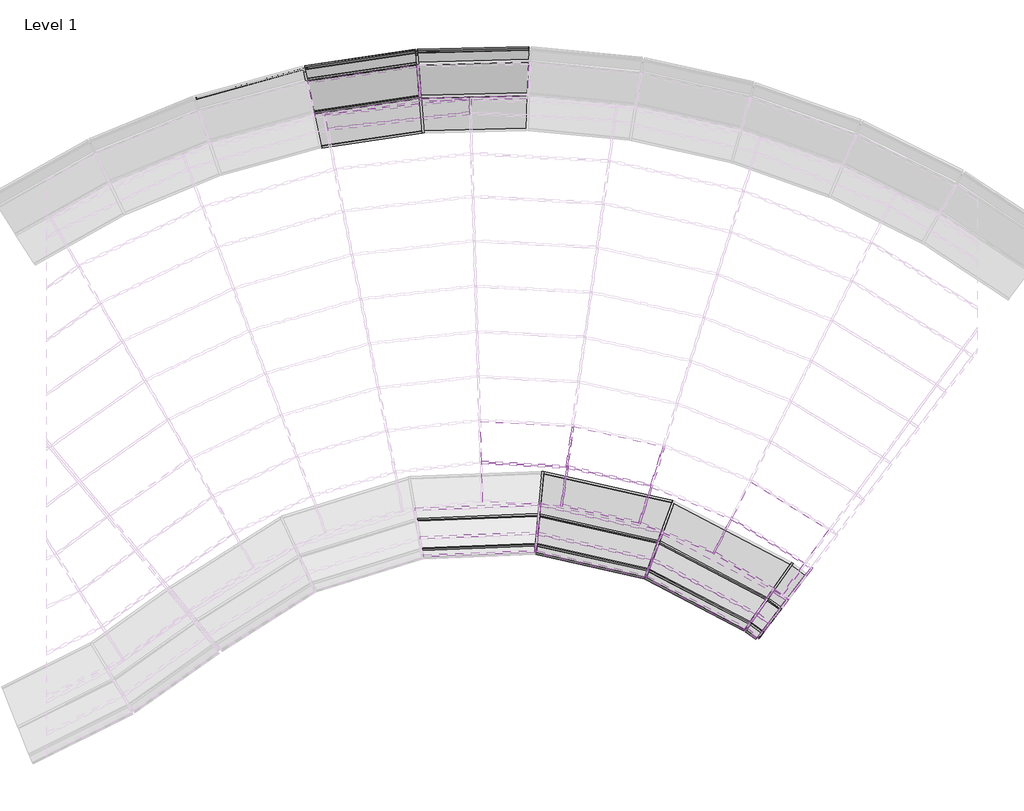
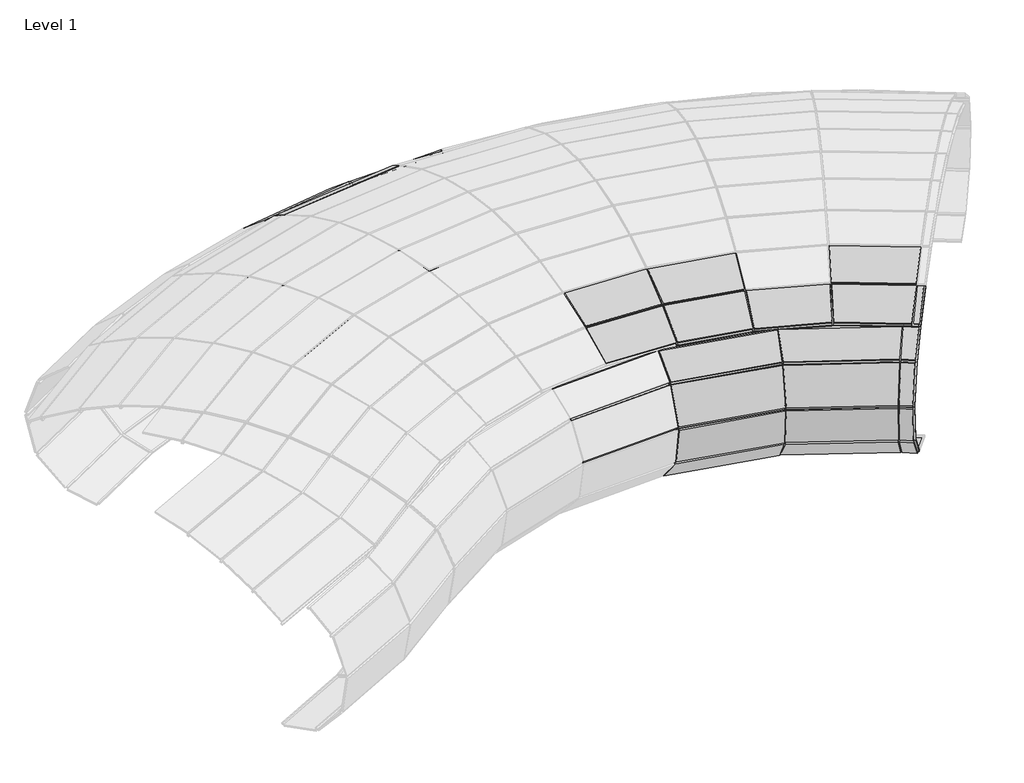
# One storey, part 10 of 23: 65 members, 34 plates.
"""IFC4 building model written with IfcOpenShell, lengths in millimetres."""

from ifc_helpers import new_model, si_unit, origin, place, context, project, spatial, transform, mapped, element, save
from components import member_a1596450, member_d6b8231b, member_54d4a950, member_a2486feb, member_89e98a43, member_bff08ed3, member_649bdf5e, member_35237229, member_65ac7dc4, member_8c9da58c, member_391bee44, member_01ebdf2a, member_4c2c1438, member_ab9de9a3, member_4657b864, member_20147643, member_c3b58052, member_3a0dd7d7, member_ff9adfd2, member_0cd36c09, member_dc232313, member_e4cc2466, member_f0155a20, member_775132e8, member_15538b30, member_0f5467c3, member_b171f0c8, member_07455e61, member_515abc7c, member_6834bcaf, member_a3fa0b53, member_b335b832, member_b70cd57a, system_panel_glazed_521f15da, system_panel_glazed_df8e7a80, system_panel_glazed_3632f886, system_panel_glazed_9a08d2db, system_panel_glazed_652ad043, system_panel_glazed_81883068, system_panel_glazed_270d951d, system_panel_glazed_c8f2843d, system_panel_glazed_44ceaade, system_panel_glazed_f797c5b5, system_panel_glazed_21d52e58, system_panel_glazed_aec5c574, system_panel_glazed_aeac0244, system_panel_glazed_c38b7309, system_panel_glazed_e73b46dd, system_panel_glazed_e5225984, system_panel_glazed_94c3709e, system_panel_glazed_130e820a, system_panel_glazed_5e04bf78

model = new_model("IFC4")

# Units and contexts
model_context = context("Model", 3, world=origin())
ifc_project = project(units=[si_unit("LENGTHUNIT", "METRE", prefix="MILLI")], contexts=[model_context])

# Site, building, storey
site = spatial("IfcSite", under=ifc_project)
building = spatial("IfcBuilding", under=site)
storey = spatial("IfcBuildingStorey", under=building, Name="Level 1", Elevation=0.0)

# Members
placement = place(None, origin())
member_shape = member_a1596450(model_context)
element("IfcMember", 1, ObjectType="Rectangular Mullion : 1\" Square", at=placement, inside=storey, context=model_context, shape_type="MappedRepresentation", body=[
    mapped(member_shape, transform((1937.8242171, -7608.1808848, 629.7792003), x_axis=(-0.09290409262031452, -0.41281592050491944, 0.9060639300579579), y_axis=(-0.1989338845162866, -0.8839554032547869, -0.4231408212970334), z_axis=(0.9755993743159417, -0.21955833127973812, 0.0))),
])
element("IfcMember", 2, ObjectType="Rectangular Mullion : 1\" Square", at=placement, inside=storey, context=model_context, shape_type="MappedRepresentation", body=[
    mapped(member_shape, transform((430.780423, -7272.382286, 629.7792003), x_axis=(0.016834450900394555, -0.42280581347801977, 0.9060639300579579), y_axis=(0.036047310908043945, -0.9053465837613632, -0.4231408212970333), z_axis=(0.9992082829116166, 0.03978451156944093, 0.0))),
])
element("IfcMember", 3, ObjectType="Rectangular Mullion : 1\" Square", at=placement, inside=storey, context=model_context, shape_type="MappedRepresentation", body=[
    mapped(member_shape, transform((3307.0644921, -8321.7092764, 629.7792003), x_axis=(-0.1963422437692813, -0.3748304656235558, 0.9060639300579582), y_axis=(-0.4204241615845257, -0.802617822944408, -0.4231408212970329), z_axis=(0.8858291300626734, -0.46401158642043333, 0.0))),
])
member_2_shape = member_d6b8231b(model_context)
element("IfcMember", 4, ObjectType="Rectangular Mullion : 1\" Square", at=placement, inside=storey, context=model_context, shape_type="MappedRepresentation", body=[
    mapped(member_2_shape, transform((3885.9085112, -7520.8318934, 0.0), x_axis=(0.8178700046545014, -0.5754030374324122, 0.0), y_axis=(-0.1612841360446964, -0.22924706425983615, -0.9599131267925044), z_axis=(0.5523369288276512, 0.7850841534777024, -0.28029767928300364))),
])
element("IfcMember", 5, ObjectType="Rectangular Mullion : 1\" Square", at=placement, inside=storey, context=model_context, shape_type="MappedRepresentation", body=[
    mapped(member_2_shape, transform((532.8987089, -6289.5105564, 0.0), x_axis=(0.9958820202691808, -0.09065871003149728, 0.0), y_axis=(-0.02541142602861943, -0.27914341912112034, -0.9599131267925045), z_axis=(0.08702448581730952, 0.9559602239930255, -0.2802976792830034))),
])
member_3_shape = member_54d4a950(model_context)
element("IfcMember", 6, ObjectType="Rectangular Mullion : 1\" Square", at=placement, inside=storey, context=model_context, shape_type="MappedRepresentation", body=[
    mapped(member_3_shape, transform((3720.0943333, -8124.4965776, 170.8694653), x_axis=(-0.4977243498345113, -0.6800295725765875, 0.5383588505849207), y_axis=(-0.31796525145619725, -0.43442876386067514, -0.8427156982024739), z_axis=(0.8069501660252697, -0.5906195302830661, 0.0))),
])
member_4_shape = member_a2486feb(model_context)
element("IfcMember", 7, ObjectType="Rectangular Mullion : 1\" Square", at=placement, inside=storey, context=model_context, shape_type="MappedRepresentation", body=[
    mapped(member_4_shape, transform((3537.9538895, -7993.5262462, 170.8694653), x_axis=(-0.39171959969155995, -0.7478188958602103, 0.5360248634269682), y_axis=(-0.2487217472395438, -0.47482643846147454, -0.844202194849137), z_axis=(0.8858291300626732, -0.46401158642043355, 0.0))),
])
element("IfcMember", 8, ObjectType="Rectangular Mullion : 1\" Square", at=placement, inside=storey, context=model_context, shape_type="MappedRepresentation", body=[
    mapped(member_4_shape, transform((2076.1483229, -7231.5106618, 170.8694653), x_axis=(-0.18535162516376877, -0.8236031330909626, 0.5360248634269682), y_axis=(-0.11768872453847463, -0.5229455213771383, -0.8442021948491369), z_axis=(0.9755993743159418, -0.21955833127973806, 0.0))),
])
element("IfcMember", 9, ObjectType="Rectangular Mullion : 1\" Square", at=placement, inside=storey, context=model_context, shape_type="MappedRepresentation", body=[
    mapped(member_4_shape, transform((467.1586371, -6872.7691723, 170.8694653), x_axis=(0.03358617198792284, -0.8435338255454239, 0.5360248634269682), y_axis=(0.021325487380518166, -0.5356004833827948, -0.8442021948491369), z_axis=(0.9992082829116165, 0.03978451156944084, 0.0))),
])
member_5_shape = member_89e98a43(model_context)
element("IfcMember", 10, ObjectType="Rectangular Mullion : 1\" Square", at=placement, inside=storey, context=model_context, shape_type="MappedRepresentation", body=[
    mapped(member_5_shape, transform((3571.6491551, -8319.5415222, 1789.6405438), x_axis=(0.3813174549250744, 0.5209854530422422, 0.7636564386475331), y_axis=(-0.45103040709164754, -0.6162326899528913, 0.6456228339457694), z_axis=(0.8069501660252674, -0.5906195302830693, 0.0))),
])
member_6_shape = member_bff08ed3(model_context)
element("IfcMember", 11, ObjectType="Rectangular Mullion : 1\" Square", at=placement, inside=storey, context=model_context, shape_type="MappedRepresentation", body=[
    mapped(member_6_shape, transform((545.2888209, -6292.2989472, 0.0), x_axis=(0.2106142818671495, 0.9358568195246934, -0.2825130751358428), y_axis=(-0.0620280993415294, -0.27561957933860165, -0.9592634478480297), z_axis=(-0.9755993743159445, 0.21955833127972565, 0.0))),
])
member_7_shape = member_649bdf5e(model_context)
element("IfcMember", 12, ObjectType="Rectangular Mullion : 1\" Square", at=placement, inside=storey, context=model_context, shape_type="MappedRepresentation", body=[
    mapped(member_7_shape, transform((3740.5908675, -8139.4983136, 170.8694653), x_axis=(0.8020965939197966, -0.5971221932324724, 0.009281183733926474), y_axis=(-0.4446549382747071, -0.607522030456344, -0.65817852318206), z_axis=(0.3986515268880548, 0.523795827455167, -0.7528046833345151))),
])
member_8_shape = member_35237229(model_context)
element("IfcMember", 13, ObjectType="Rectangular Mullion : 1\" Square", at=placement, inside=storey, context=model_context, shape_type="MappedRepresentation", body=[
    mapped(member_8_shape, transform((3497.5728968, -8458.8042501, 629.7792003), x_axis=(0.8066991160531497, -0.5909558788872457, 0.0027722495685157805), y_axis=(-0.5839654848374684, -0.797858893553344, -0.14968466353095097), z_axis=(0.09066889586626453, 0.11913158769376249, -0.9887299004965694))),
])
member_9_shape = member_65ac7dc4(model_context)
element("IfcMember", 14, ObjectType="Rectangular Mullion : 1\" Square", at=placement, inside=storey, context=model_context, shape_type="MappedRepresentation", body=[
    mapped(member_9_shape, transform((3442.3011378, -8531.4268659, 1232.5089476), x_axis=(0.8051049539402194, -0.5930916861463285, -0.006947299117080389), y_axis=(-0.5398003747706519, -0.7375170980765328, 0.40581286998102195), z_axis=(-0.24580799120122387, -0.32297179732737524, -0.9139297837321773))),
])
member_10_shape = member_8c9da58c(model_context)
element("IfcMember", 15, ObjectType="Rectangular Mullion : 1\" Square", at=placement, inside=storey, context=model_context, shape_type="MappedRepresentation", body=[
    mapped(member_10_shape, transform((479.8485823, -6872.263909, 170.8694653), x_axis=(0.9958820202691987, -0.09065871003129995, 0.0), y_axis=(-0.06824830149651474, -0.7497046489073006, -0.6582439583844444), z_axis=(0.059675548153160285, 0.655533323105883, -0.7528046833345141))),
])
element("IfcMember", 16, ObjectType="Rectangular Mullion : 1\" Square", at=placement, inside=storey, context=model_context, shape_type="MappedRepresentation", body=[
    mapped(member_10_shape, transform((2088.538435, -7234.2990526, 170.8694653), x_axis=(0.9387056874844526, -0.34471964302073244, 0.0), y_axis=(-0.259506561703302, -0.7066620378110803, -0.6582439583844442), z_axis=(0.22690962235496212, 0.6178973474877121, -0.7528046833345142))),
])
element("IfcMember", 17, ObjectType="Rectangular Mullion : 1\" Square", at=placement, inside=storey, context=model_context, shape_type="MappedRepresentation", body=[
    mapped(member_10_shape, transform((443.4703682, -7271.8770227, 629.7792003), x_axis=(0.9958820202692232, -0.0906587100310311, 0.0), y_axis=(-0.08963697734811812, -0.9846583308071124, -0.14971033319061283), z_axis=(0.013572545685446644, 0.1490938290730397, -0.9887299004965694))),
])
element("IfcMember", 18, ObjectType="Rectangular Mullion : 1\" Square", at=placement, inside=storey, context=model_context, shape_type="MappedRepresentation", body=[
    mapped(member_10_shape, transform((1950.2143292, -7610.9692756, 629.7792003), x_axis=(0.9387056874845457, -0.34471964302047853, 0.0), y_axis=(-0.34083461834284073, -0.9281263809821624, -0.14971033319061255), z_axis=(0.05160809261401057, 0.14053394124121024, -0.9887299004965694))),
])
element("IfcMember", 19, ObjectType="Rectangular Mullion : 1\" Square", at=placement, inside=storey, context=model_context, shape_type="MappedRepresentation", body=[
    mapped(member_10_shape, transform((3318.3145221, -8327.6022236, 629.7792003), x_axis=(0.8178700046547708, -0.5754030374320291, 0.0), y_axis=(-0.5689181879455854, -0.8086525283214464, -0.14971033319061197), z_axis=(0.08614378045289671, 0.12244359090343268, -0.9887299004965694))),
])
member_11_shape = member_391bee44(model_context)
element("IfcMember", 20, ObjectType="Rectangular Mullion : 1\" Square", at=placement, inside=storey, context=model_context, shape_type="MappedRepresentation", body=[
    mapped(member_11_shape, transform((435.1965443, -7362.7646209, 1232.5089476), x_axis=(0.9958820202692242, -0.09065871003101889, 0.0), y_axis=(-0.08285569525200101, -0.9101662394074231, 0.40587233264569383), z_axis=(-0.03679586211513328, -0.40420095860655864, -0.9139297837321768))),
])
element("IfcMember", 21, ObjectType="Rectangular Mullion : 1\" Square", at=placement, inside=storey, context=model_context, shape_type="MappedRepresentation", body=[
    mapped(member_11_shape, transform((1918.7540359, -7696.6387662, 1232.5089476), x_axis=(0.9387056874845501, -0.34471964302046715, 0.0), y_axis=(-0.3150495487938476, -0.8579110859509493, 0.4058723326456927), z_axis=(-0.13991216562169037, -0.38099466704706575, -0.9139297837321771))),
])
element("IfcMember", 22, ObjectType="Rectangular Mullion : 1\" Square", at=placement, inside=storey, context=model_context, shape_type="MappedRepresentation", body=[
    mapped(member_11_shape, transform((3265.8012735, -8402.2438366, 1232.5089476), x_axis=(0.8178700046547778, -0.5754030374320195, 0.0), y_axis=(-0.5258779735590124, -0.7474757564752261, 0.40587233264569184), z_axis=(-0.23354017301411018, -0.3319508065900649, -0.9139297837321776))),
])
member_12_shape = member_01ebdf2a(model_context)
element("IfcMember", 23, ObjectType="Rectangular Mullion : 1\" Square", at=placement, inside=storey, context=model_context, shape_type="MappedRepresentation", body=[
    mapped(member_12_shape, transform((457.6273019, -7116.3637166, 1789.6405438), x_axis=(0.9958820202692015, -0.09065871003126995, 0.0), y_axis=(-0.054019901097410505, -0.5934062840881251, 0.8030883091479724), z_axis=(-0.0728069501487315, -0.7997812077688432, -0.5958600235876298))),
])
element("IfcMember", 24, ObjectType="Rectangular Mullion : 1\" Square", at=placement, inside=storey, context=model_context, shape_type="MappedRepresentation", body=[
    mapped(member_12_shape, transform((2004.0444921, -7464.3844172, 1789.6405438), x_axis=(0.9387056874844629, -0.344719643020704, 0.0), y_axis=(-0.20540465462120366, -0.5593371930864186, 0.8030883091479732), z_axis=(-0.27684031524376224, -0.7538635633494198, -0.5958600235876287))),
])
element("IfcMember", 25, ObjectType="Rectangular Mullion : 1\" Square", at=placement, inside=storey, context=model_context, shape_type="MappedRepresentation", body=[
    mapped(member_12_shape, transform((3408.167363, -8199.8866249, 1789.6405438), x_axis=(0.8178700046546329, -0.5754030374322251, 0.0), y_axis=(-0.34285966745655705, -0.4873360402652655, 0.8030883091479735), z_axis=(-0.46209945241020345, -0.6568218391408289, -0.5958600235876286))),
])
member_13_shape = member_4c2c1438(model_context)
element("IfcMember", 26, ObjectType="Rectangular Mullion : 1\" Square", at=placement, inside=storey, context=model_context, shape_type="MappedRepresentation", body=[
    mapped(member_13_shape, transform((422.5065991, -7363.2698842, 1232.5089476), x_axis=(-0.005343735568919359, 0.1342106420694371, 0.9909384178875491), y_axis=(0.039424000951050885, -0.9901538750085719, 0.13431698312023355), z_axis=(0.9992082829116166, 0.03978451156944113, 0.0))),
])
element("IfcMember", 27, ObjectType="Rectangular Mullion : 1\" Square", at=placement, inside=storey, context=model_context, shape_type="MappedRepresentation", body=[
    mapped(member_13_shape, transform((1906.3639239, -7693.8503754, 1232.5089476), x_axis=(0.029490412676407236, 0.13103956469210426, 0.9909384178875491), y_axis=(-0.2175687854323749, -0.9667589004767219, 0.13431698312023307), z_axis=(0.9755993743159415, -0.21955833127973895, 0.0))),
])
element("IfcMember", 28, ObjectType="Rectangular Mullion : 1\" Square", at=placement, inside=storey, context=model_context, shape_type="MappedRepresentation", body=[
    mapped(member_13_shape, transform((3254.5512436, -8396.3508895, 1232.5089476), x_axis=(0.06232463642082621, 0.11898189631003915, 0.990938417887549), y_axis=(-0.45980690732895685, -0.8778021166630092, 0.1343169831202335), z_axis=(0.8858291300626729, -0.46401158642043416, 0.0))),
])
member_14_shape = member_ab9de9a3(model_context)
element("IfcMember", 29, ObjectType="Rectangular Mullion : 1\" Square", at=placement, inside=storey, context=model_context, shape_type="MappedRepresentation", body=[
    mapped(member_14_shape, transform((3421.8046036, -8516.4251299, 1232.5089476), x_axis=(0.07878404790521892, 0.10764087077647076, 0.9910633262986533), y_axis=(-0.5853413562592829, -0.7997387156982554, 0.13339221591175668), z_axis=(0.8069501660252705, -0.5906195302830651, 0.0))),
])
member_15_shape = member_4657b864(model_context)
element("IfcMember", 30, ObjectType="Rectangular Mullion : 1\" Square", at=placement, inside=storey, context=model_context, shape_type="MappedRepresentation", body=[
    mapped(member_15_shape, transform((444.9373567, -7116.8689799, 1789.6405438), x_axis=(-0.025786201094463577, 0.6476335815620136, 0.7615154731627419), y_axis=(0.03029652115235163, -0.7609125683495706, 0.6481467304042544), z_axis=(0.9992082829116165, 0.039784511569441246, 0.0))),
])
element("IfcMember", 31, ObjectType="Rectangular Mullion : 1\" Square", at=placement, inside=storey, context=model_context, shape_type="MappedRepresentation", body=[
    mapped(member_15_shape, transform((1991.65438, -7461.5960263, 1789.6405438), x_axis=(0.1423060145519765, 0.6323315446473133, 0.7615154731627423), y_axis=(-0.1671970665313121, -0.7429340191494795, 0.648146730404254), z_axis=(0.9755993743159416, -0.21955833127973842, 0.0))),
])
element("IfcMember", 32, ObjectType="Rectangular Mullion : 1\" Square", at=placement, inside=storey, context=model_context, shape_type="MappedRepresentation", body=[
    mapped(member_15_shape, transform((3396.917333, -8193.9936778, 1789.6405438), x_axis=(0.3007475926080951, 0.5741472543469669, 0.7615154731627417), y_axis=(-0.35335200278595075, -0.6745725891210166, 0.6481467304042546), z_axis=(0.8858291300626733, -0.46401158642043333, 0.0))),
])
member_16_shape = member_20147643(model_context)
element("IfcMember", 33, ObjectType="Rectangular Mullion : 1\" Square", at=placement, inside=storey, context=model_context, shape_type="MappedRepresentation", body=[
    mapped(member_16_shape, transform((3477.0763625, -8443.802514, 629.7792003), x_axis=(-0.24849482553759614, -0.33951288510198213, 0.9071831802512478), y_axis=(-0.5358001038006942, -0.7320516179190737, -0.4207358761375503), z_axis=(0.8069501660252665, -0.5906195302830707, 0.0))),
])
member_17_shape = member_c3b58052(model_context)
element("IfcMember", 34, ObjectType="Rectangular Mullion : 1\" Square", at=placement, inside=storey, context=model_context, shape_type="MappedRepresentation", body=[
    mapped(member_17_shape, transform((3813.2347181, -8002.1176536, 2085.6089632), x_axis=(0.47429009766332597, 0.6480118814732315, 0.59592743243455), y_axis=(-0.35196638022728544, -0.48088374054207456, 0.8030382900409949), z_axis=(0.8069501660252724, -0.5906195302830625, 0.0))),
])
member_18_shape = member_3a0dd7d7(model_context)
element("IfcMember", 35, ObjectType="Rectangular Mullion : 1\" Square", at=placement, inside=storey, context=model_context, shape_type="MappedRepresentation", body=[
    mapped(member_18_shape, transform((481.1011487, -6719.6112842, 2085.6089632), x_axis=(-0.031853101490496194, 0.8000068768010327, 0.5991447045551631), y_axis=(0.023836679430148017, -0.5986703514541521, 0.8006407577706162), z_axis=(0.9992082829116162, 0.03978451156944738, 0.0))),
])
element("IfcMember", 36, ObjectType="Rectangular Mullion : 1\" Square", at=placement, inside=storey, context=model_context, shape_type="MappedRepresentation", body=[
    mapped(member_18_shape, transform((2129.1631695, -7087.1459903, 2085.6089632), x_axis=(0.17578734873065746, 0.7811046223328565, 0.5991447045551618), y_axis=(-0.13154721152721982, -0.5845251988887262, 0.8006407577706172), z_axis=(0.9755993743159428, -0.21955833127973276, 0.0))),
])
member_19_shape = member_ff9adfd2(model_context)
element("IfcMember", 37, ObjectType="Rectangular Mullion : 1\" Square", at=placement, inside=storey, context=model_context, shape_type="MappedRepresentation", body=[
    mapped(member_19_shape, transform((-440.1682288, -1469.4116748, 2208.6526723), x_axis=(0.9995637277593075, 0.029535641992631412, 0.0), y_axis=(-0.015110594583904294, 0.5113822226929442, 0.8592205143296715), z_axis=(0.02537762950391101, -0.8588456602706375, 0.5116054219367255))),
])
member_20_shape = member_0cd36c09(model_context)
element("IfcMember", 38, ObjectType="Rectangular Mullion : 1\" Square", at=placement, inside=storey, context=model_context, shape_type="MappedRepresentation", body=[
    mapped(member_20_shape, transform((859.3573032, -6222.74986, 2378.3537392), x_axis=(0.9907327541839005, -0.13582565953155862, 0.0), y_axis=(-0.05057792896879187, -0.3689230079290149, 0.9280828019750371), z_axis=(-0.12605745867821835, -0.9194820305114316, -0.3723738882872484))),
])
element("IfcMember", 39, ObjectType="Rectangular Mullion : 1\" Square", at=placement, inside=storey, context=model_context, shape_type="MappedRepresentation", body=[
    mapped(member_20_shape, transform((1994.1119759, -6475.4787484, 2378.3537392), x_axis=(0.9547335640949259, -0.29746230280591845, 0.0), y_axis=(-0.11076719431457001, -0.35551784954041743, 0.928082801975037), z_axis=(-0.27606964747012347, -0.8860718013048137, -0.37237388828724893))),
])
member_21_shape = member_dc232313(model_context)
element("IfcMember", 40, ObjectType="Rectangular Mullion : 1\" Square", at=placement, inside=storey, context=model_context, shape_type="MappedRepresentation", body=[
    mapped(member_21_shape, transform((1981.7156999, -6472.7178899, 2378.3537392), x_axis=(0.1966702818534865, 0.8830510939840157, 0.4260769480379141), y_axis=(-0.09262505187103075, -0.4158872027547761, 0.9046869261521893), z_axis=(0.9760847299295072, -0.21739043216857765, 0.0))),
])
element("IfcMember", 41, ObjectType="Rectangular Mullion : 1\" Square", at=placement, inside=storey, context=model_context, shape_type="MappedRepresentation", body=[
    mapped(member_21_shape, transform((846.6753747, -6222.0725929, 2378.3537392), x_axis=(0.048245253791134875, 0.9033995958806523, 0.426076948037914), y_axis=(-0.0227218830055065, -0.4254706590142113, 0.9046869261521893), z_axis=(0.9985770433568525, -0.05332812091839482, 0.0))),
])
member_22_shape = member_e4cc2466(model_context)
element("IfcMember", 42, ObjectType="Rectangular Mullion : 1\" Square", at=placement, inside=storey, context=model_context, shape_type="MappedRepresentation", body=[
    mapped(member_22_shape, transform((2830.4781949, -7389.2645166, 2085.6089632), x_axis=(0.8925533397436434, -0.45094183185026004, 0.0), y_axis=(-0.21655325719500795, -0.4286258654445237, 0.8771456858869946), z_axis=(-0.39554168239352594, -0.7828993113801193, -0.48022437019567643))),
])
element("IfcMember", 43, ObjectType="Rectangular Mullion : 1\" Square", at=placement, inside=storey, context=model_context, shape_type="MappedRepresentation", body=[
    mapped(member_22_shape, transform((1835.0564999, -6985.9824326, 2085.6089632), x_axis=(0.9547335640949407, -0.2974623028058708, 0.0), y_axis=(-0.14284864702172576, -0.4584863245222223, 0.8771456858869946), z_axis=(-0.2609177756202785, -0.8374404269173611, -0.48022437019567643))),
])
element("IfcMember", 44, ObjectType="Rectangular Mullion : 1\" Square", at=placement, inside=storey, context=model_context, shape_type="MappedRepresentation", body=[
    mapped(member_22_shape, transform((786.7302351, -6752.5025996, 2085.6089632), x_axis=(0.9907327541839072, -0.13582565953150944, 0.0), y_axis=(-0.0652267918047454, -0.47577401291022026, 0.8771456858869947), z_axis=(-0.11913889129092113, -0.8690169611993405, -0.4802243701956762))),
])
member_23_shape = member_f0155a20(model_context)
element("IfcMember", 45, ObjectType="Rectangular Mullion : 1\" Square", at=placement, inside=storey, context=model_context, shape_type="MappedRepresentation", body=[
    mapped(member_23_shape, transform((-452.7880414, -1470.8365713, 2208.6526723), x_axis=(-0.09781407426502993, 0.8663052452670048, -0.4898444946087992), y_axis=(-0.05495887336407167, 0.48675163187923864, 0.8718098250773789), z_axis=(0.9936860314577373, 0.11219657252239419, 0.0))),
])
member_24_shape = member_775132e8(model_context)
element("IfcMember", 46, ObjectType="Rectangular Mullion : 1\" Square", at=placement, inside=storey, context=model_context, shape_type="MappedRepresentation", body=[
    mapped(member_24_shape, transform((-458.8914905, -1264.2798166, 2085.6089632), x_axis=(-0.09631462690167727, 0.8530251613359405, -0.5129050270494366), y_axis=(-0.057546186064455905, 0.5096665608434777, 0.8584453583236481), z_axis=(0.9936860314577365, 0.11219657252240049, 0.0))),
])
member_25_shape = member_15538b30(model_context)
element("IfcMember", 47, ObjectType="Rectangular Mullion : 1\" Square", at=placement, inside=storey, context=model_context, shape_type="MappedRepresentation", body=[
    mapped(member_25_shape, transform((799.1265111, -6755.2634581, 2085.6089632), x_axis=(-0.19053148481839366, -0.8554878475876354, -0.4814958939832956), y_axis=(-0.10467260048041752, -0.4699807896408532, 0.8764483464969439), z_axis=(-0.9760847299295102, 0.2173904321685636, 0.0))),
])
element("IfcMember", 48, ObjectType="Rectangular Mullion : 1\" Square", at=placement, inside=storey, context=model_context, shape_type="MappedRepresentation", body=[
    mapped(member_25_shape, transform((1846.8271886, -6990.7511733, 2085.6089632), x_axis=(-0.329098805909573, -0.8123150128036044, -0.48149589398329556), y_axis=(-0.1807975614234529, -0.44626285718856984, 0.8764483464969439), z_axis=(-0.9268258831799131, 0.37549138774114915, 0.0))),
])
element("IfcMember", 49, ObjectType="Rectangular Mullion : 1\" Square", at=placement, inside=storey, context=model_context, shape_type="MappedRepresentation", body=[
    mapped(member_25_shape, transform((2841.3005164, -7395.9103693, 2085.6089632), x_axis=(-0.45864146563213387, -0.7468665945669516, -0.4814958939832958), y_axis=(-0.2519646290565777, -0.4103073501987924, 0.8764483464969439), z_axis=(-0.8521512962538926, 0.5232954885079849, 0.0))),
])
member_26_shape = member_0f5467c3(model_context)
element("IfcMember", 50, ObjectType="Rectangular Mullion : 1\" Square", at=placement, inside=storey, context=model_context, shape_type="MappedRepresentation", body=[
    mapped(member_26_shape, transform((3833.7312523, -8017.1193897, 2085.6089632), x_axis=(0.7969242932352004, -0.6040686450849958, -0.0035697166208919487), y_axis=(-0.28759687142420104, -0.3845987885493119, 0.8771384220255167), z_axis=(-0.5312247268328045, -0.6979862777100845, -0.4802243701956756))),
])
element("IfcMember", 51, ObjectType="Rectangular Mullion : 1\" Square", at=placement, inside=storey, context=model_context, shape_type="MappedRepresentation", body=[
    mapped(member_10_shape, transform((-2676.4810754, -869.9608129, 1116.1918244), x_axis=(0.9786921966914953, 0.2053328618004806, 0.0), y_axis=(-0.1985557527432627, 0.9463899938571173, -0.2547971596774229), z_axis=(-0.05231822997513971, 0.24936799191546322, 0.9669945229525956))),
])
element("IfcMember", 52, ObjectType="Rectangular Mullion : 1\" Square", at=placement, inside=storey, context=model_context, shape_type="MappedRepresentation", body=[
    mapped(member_10_shape, transform((-1150.1711115, -833.3688141, 1696.6281859), x_axis=(0.9963613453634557, 0.08522951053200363, 0.0), y_axis=(-0.08115207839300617, 0.9486948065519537, 0.30560187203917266), z_axis=(0.026046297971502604, -0.30448989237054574, 0.9521593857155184))),
])
element("IfcMember", 53, ObjectType="Rectangular Mullion : 1\" Square", at=placement, inside=storey, context=model_context, shape_type="MappedRepresentation", body=[
    mapped(member_10_shape, transform((-1166.0489348, -647.7517757, 1116.1918244), x_axis=(0.9963613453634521, 0.08522951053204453, 0.0), y_axis=(-0.08241646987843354, 0.9634759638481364, -0.25479715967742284), z_axis=(-0.021716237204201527, 0.25387004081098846, 0.9669945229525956))),
])
element("IfcMember", 54, ObjectType="Rectangular Mullion : 1\" Square", at=placement, inside=storey, context=model_context, shape_type="MappedRepresentation", body=[
    mapped(member_11_shape, transform((-1152.8107166, -802.5109526, 526.7119632), x_axis=(0.99636134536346, 0.0852295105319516, 0.0), y_axis=(-0.05778007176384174, 0.6754682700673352, -0.7351218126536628), z_axis=(-0.06265407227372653, 0.7324469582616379, 0.6779350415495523))),
])
element("IfcMember", 55, ObjectType="Rectangular Mullion : 1\" Square", at=placement, inside=storey, context=model_context, shape_type="MappedRepresentation", body=[
    mapped(member_12_shape, transform((-1114.6167941, -1249.0106184, 113.4427618), x_axis=(0.9963613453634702, 0.08522951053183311, 0.0), y_axis=(-0.019465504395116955, 0.227558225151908, -0.9735698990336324), z_axis=(-0.08297688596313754, 0.97002741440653, 0.2283892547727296))),
])
element("IfcMember", 56, ObjectType="Rectangular Mullion : 1\" Square", at=placement, inside=storey, context=model_context, shape_type="MappedRepresentation", body=[
    mapped(member_2_shape, transform((-1110.1671252, -1301.028729, 2085.6089632), x_axis=(0.9963613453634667, 0.08522951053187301, 0.0), y_axis=(-0.0543842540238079, 0.6357700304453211, 0.7699602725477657), z_axis=(0.0656233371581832, -0.7671586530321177, 0.6380918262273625))),
])
member_27_shape = member_b171f0c8(model_context)
element("IfcMember", 57, ObjectType="Rectangular Mullion : 1\" Square", at=placement, inside=storey, context=model_context, shape_type="MappedRepresentation", body=[
    mapped(member_27_shape, transform((-2688.7292646, -873.3181719, 1116.1918244), x_axis=(-0.007013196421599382, 0.025585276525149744, -0.9996480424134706), y_axis=(-0.26426592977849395, 0.9640849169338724, 0.02652906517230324), z_axis=(0.9644243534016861, 0.26435897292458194, 0.0))),
])
element("IfcMember", 58, ObjectType="Rectangular Mullion : 1\" Square", at=placement, inside=storey, context=model_context, shape_type="MappedRepresentation", body=[
    mapped(member_27_shape, transform((-1178.613692, -649.6002551, 1116.1918244), x_axis=(-0.0038612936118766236, 0.02624655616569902, -0.9996480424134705), y_axis=(-0.1454983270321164, 0.9890027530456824, 0.026529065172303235), z_axis=(0.9893509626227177, 0.14554955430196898, 0.0))),
])
member_28_shape = member_07455e61(model_context)
element("IfcMember", 59, ObjectType="Rectangular Mullion : 1\" Square", at=placement, inside=storey, context=model_context, shape_type="MappedRepresentation", body=[
    mapped(member_28_shape, transform((-1165.3754738, -804.359432, 526.7119632), x_axis=(0.07519318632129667, -0.5111142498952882, -0.8562173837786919), y_axis=(-0.12462205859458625, 0.8470994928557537, -0.5166157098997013), z_axis=(0.9893509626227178, 0.14554955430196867, 0.0))),
])
member_29_shape = member_515abc7c(model_context)
element("IfcMember", 60, ObjectType="Rectangular Mullion : 1\" Square", at=placement, inside=storey, context=model_context, shape_type="MappedRepresentation", body=[
    mapped(member_29_shape, transform((-1162.7358687, -835.2172935, 1696.6281859), x_axis=(-0.08168989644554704, 0.5552746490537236, -0.8276453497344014), y_axis=(-0.12046341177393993, 0.8188317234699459, 0.5612514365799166), z_axis=(0.9893509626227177, 0.14554955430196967, 0.0))),
])
member_30_shape = member_6834bcaf(model_context)
element("IfcMember", 61, ObjectType="Rectangular Mullion : 1\" Square", at=placement, inside=storey, context=model_context, shape_type="MappedRepresentation", body=[
    mapped(member_30_shape, transform((-1127.1815513, -1250.8590977, 113.4427618), x_axis=(0.130451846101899, -0.8867265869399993, -0.4435067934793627), y_axis=(-0.06455221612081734, 0.4387838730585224, -0.896271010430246), z_axis=(0.9893509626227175, 0.1455495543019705, 0.0))),
])
member_31_shape = member_a3fa0b53(model_context)
element("IfcMember", 62, ObjectType="Rectangular Mullion : 1\" Square", at=placement, inside=storey, context=model_context, shape_type="MappedRepresentation", body=[
    mapped(member_31_shape, transform((-1085.9662712, -1732.6794402, 0.0), x_axis=(0.1416890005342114, -0.963109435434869, -0.22878907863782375), y_axis=(-0.033300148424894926, 0.22635269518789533, -0.9734760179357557), z_axis=(0.9893509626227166, 0.14554955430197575, 0.0))),
])
member_32_shape = member_b335b832(model_context)
element("IfcMember", 63, ObjectType="Rectangular Mullion : 1\" Square", at=placement, inside=storey, context=model_context, shape_type="MappedRepresentation", body=[
    mapped(member_32_shape, transform((-2529.287223, -1509.8042855, 2085.6089632), x_axis=(0.11198310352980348, -0.7611881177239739, 0.6387898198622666), y_axis=(-0.09297557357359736, 0.6319873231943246, 0.7693812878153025), z_axis=(-0.9893509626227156, -0.14554955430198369, 0.0))),
])
element("IfcMember", 64, ObjectType="Rectangular Mullion : 1\" Square", at=placement, inside=storey, context=model_context, shape_type="MappedRepresentation", body=[
    mapped(member_32_shape, transform((-1097.470967, -1300.7163704, 2085.6089632), x_axis=(0.018923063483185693, -0.7691485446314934, 0.6387898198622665), y_axis=(-0.01571114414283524, 0.6385965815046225, 0.7693812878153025), z_axis=(-0.999697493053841, -0.024595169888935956, 0.0))),
])
member_33_shape = member_b70cd57a(model_context)
element("IfcMember", 65, ObjectType="Rectangular Mullion : 1\" Square", at=placement, inside=storey, context=model_context, shape_type="MappedRepresentation", body=[
    mapped(member_33_shape, transform((3592.1456893, -8334.5432583, 1789.6405438), x_axis=(0.7997252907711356, -0.6002991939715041, -0.00896309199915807), y_axis=(-0.351966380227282, -0.48088374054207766, 0.8030382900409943), z_axis=(-0.48637344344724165, -0.6390553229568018, -0.5958600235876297))),
])

# Plates
system_panel_glazed_shape = system_panel_glazed_521f15da(model_context)
element("IfcPlate", 66, ObjectType="System Panel : Glazed", at=placement, inside=storey, context=model_context, shape_type="MappedRepresentation", body=[
    mapped(system_panel_glazed_shape, transform((1406.2275667, -6511.0276299, 7.1758321), x_axis=(0.9755993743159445, -0.21955833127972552, 0.0), y_axis=(0.06202809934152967, 0.27561957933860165, 0.9592634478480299), z_axis=(-0.21061428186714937, -0.9358568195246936, 0.28251307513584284))),
])
element("IfcPlate", 67, ObjectType="System Panel : Glazed", at=placement, inside=storey, context=model_context, shape_type="MappedRepresentation", body=[
    mapped(system_panel_glazed_shape, transform((3076.776293, -7124.5010201, 7.1758321), x_axis=(0.8858291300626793, -0.46401158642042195, 0.0), y_axis=(0.13108934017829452, 0.2502583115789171, 0.9592634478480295), z_axis=(-0.44510935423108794, -0.8497435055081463, 0.28251307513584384))),
])
system_panel_glazed_2_shape = system_panel_glazed_df8e7a80(model_context)
element("IfcPlate", 68, ObjectType="System Panel : Glazed", at=placement, inside=storey, context=model_context, shape_type="MappedRepresentation", body=[
    mapped(system_panel_glazed_2_shape, transform((3970.9203707, -7613.2677401, 7.1207118), x_axis=(0.8069501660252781, -0.5906195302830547, 0.0), y_axis=(0.16557604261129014, 0.22622281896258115, 0.9598998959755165), z_axis=(-0.5669356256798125, -0.7745913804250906, 0.28034298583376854))),
])
system_panel_glazed_3_shape = system_panel_glazed_3632f886(model_context)
element("IfcPlate", 69, ObjectType="System Panel : Glazed", at=placement, inside=storey, context=model_context, shape_type="MappedRepresentation", body=[
    mapped(system_panel_glazed_3_shape, transform((1282.3669717, -7061.3976308, 180.4653952), x_axis=(0.9755993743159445, -0.21955833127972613, 0.0), y_axis=(0.1658949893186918, 0.7371482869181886, 0.6550505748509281), z_axis=(-0.1438218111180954, -0.639066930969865, 0.7555850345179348))),
])
element("IfcPlate", 70, ObjectType="System Panel : Glazed", at=placement, inside=storey, context=model_context, shape_type="MappedRepresentation", body=[
    mapped(system_panel_glazed_3_shape, transform((2815.0109988, -7624.2284615, 180.4653952), x_axis=(0.8858291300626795, -0.4640115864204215, 0.0), y_axis=(0.35060021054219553, 0.6693192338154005, 0.6550505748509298), z_axis=(-0.30395105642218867, -0.5802628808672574, 0.7555850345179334))),
])
system_panel_glazed_4_shape = system_panel_glazed_9a08d2db(model_context)
element("IfcPlate", 71, ObjectType="System Panel : Glazed", at=placement, inside=storey, context=model_context, shape_type="MappedRepresentation", body=[
    mapped(system_panel_glazed_4_shape, transform((3634.8359603, -8072.4532238, 180.4308113), x_axis=(0.8069501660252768, -0.5906195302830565, 0.0), y_axis=(0.4446549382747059, 0.6075220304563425, 0.6581785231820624), z_axis=(-0.38873309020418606, -0.5311172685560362, 0.7528618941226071))),
])
system_panel_glazed_5_shape = system_panel_glazed_652ad043(model_context)
element("IfcPlate", 72, ObjectType="System Panel : Glazed", at=placement, inside=storey, context=model_context, shape_type="MappedRepresentation", body=[
    mapped(system_panel_glazed_5_shape, transform((1196.428373, -7443.262635, 642.3384564), x_axis=(0.9755993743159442, -0.21955833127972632, 0.0), y_axis=(0.21712514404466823, 0.9647875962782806, 0.1484640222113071), z_axis=(-0.03259651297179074, -0.14484140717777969, 0.988917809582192))),
])
element("IfcPlate", 73, ObjectType="System Panel : Glazed", at=placement, inside=storey, context=model_context, shape_type="MappedRepresentation", body=[
    mapped(system_panel_glazed_5_shape, transform((2633.389535, -7970.9559743, 642.3384564), x_axis=(0.8858291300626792, -0.4640115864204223, 0.0), y_axis=(0.45886932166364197, 0.8760122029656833, 0.14846402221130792), z_axis=(-0.06888902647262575, -0.1315137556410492, 0.988917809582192))),
])
system_panel_glazed_6_shape = system_panel_glazed_81883068(model_context)
element("IfcPlate", 74, ObjectType="System Panel : Glazed", at=placement, inside=storey, context=model_context, shape_type="MappedRepresentation", body=[
    mapped(system_panel_glazed_6_shape, transform((3401.6967908, -8390.9867965, 642.3361193), x_axis=(0.8069501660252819, -0.5906195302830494, 0.0), y_axis=(0.5839654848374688, 0.7978588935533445, 0.14968466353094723), z_axis=(-0.08840668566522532, -0.12078806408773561, 0.9887337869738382))),
])
system_panel_glazed_7_shape = system_panel_glazed_270d951d(model_context)
element("IfcPlate", 75, ObjectType="System Panel : Glazed", at=placement, inside=storey, context=model_context, shape_type="MappedRepresentation", body=[
    mapped(system_panel_glazed_7_shape, transform((1178.0989563, -7524.7087241, 1244.1320982), x_axis=(0.9755993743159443, -0.21955833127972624, 0.0), y_axis=(0.20094169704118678, 0.892877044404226, -0.4029801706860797), z_axis=(0.08847765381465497, 0.3931472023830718, 0.9152087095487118))),
])
element("IfcPlate", 76, ObjectType="System Panel : Glazed", at=placement, inside=storey, context=model_context, shape_type="MappedRepresentation", body=[
    mapped(system_panel_glazed_7_shape, transform((2594.6523956, -8044.9077624, 1244.1320982), x_axis=(0.8858291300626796, -0.4640115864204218, 0.0), y_axis=(0.4246674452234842, 0.8107185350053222, -0.4029801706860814), z_axis=(0.18698746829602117, 0.3569715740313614, 0.9152087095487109))),
])
system_panel_glazed_8_shape = system_panel_glazed_c8f2843d(model_context)
element("IfcPlate", 77, ObjectType="System Panel : Glazed", at=placement, inside=storey, context=model_context, shape_type="MappedRepresentation", body=[
    mapped(system_panel_glazed_8_shape, transform((3351.9708729, -8458.9259302, 1244.1161912), x_axis=(0.806950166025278, -0.5906195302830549, 0.0), y_axis=(0.5398003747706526, 0.7375170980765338, -0.4058128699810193), z_axis=(0.2396810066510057, 0.3274707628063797, 0.9139561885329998))),
])
system_panel_glazed_9_shape = system_panel_glazed_44ceaade(model_context)
element("IfcPlate", 78, ObjectType="System Panel : Glazed", at=placement, inside=storey, context=model_context, shape_type="MappedRepresentation", body=[
    mapped(system_panel_glazed_9_shape, transform((1233.0683963, -7280.4540382, 1797.2496815), x_axis=(0.9755993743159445, -0.21955833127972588, 0.0), y_axis=(0.13154721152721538, 0.5845251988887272, -0.800640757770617), z_axis=(0.17578734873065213, 0.7811046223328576, 0.5991447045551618))),
])
element("IfcPlate", 79, ObjectType="System Panel : Glazed", at=placement, inside=storey, context=model_context, shape_type="MappedRepresentation", body=[
    mapped(system_panel_glazed_9_shape, transform((2710.8240612, -7823.1282885, 1797.2496815), x_axis=(0.8858291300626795, -0.46401158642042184, 0.0), y_axis=(0.27801008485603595, 0.5307398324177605, -0.8006407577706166), z_axis=(0.3715065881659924, 0.7092309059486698, 0.5991447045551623))),
])
system_panel_glazed_10_shape = system_panel_glazed_f797c5b5(model_context)
element("IfcPlate", 80, ObjectType="System Panel : Glazed", at=placement, inside=storey, context=model_context, shape_type="MappedRepresentation", body=[
    mapped(system_panel_glazed_10_shape, transform((3501.0552971, -8255.2343324, 1797.2088221), x_axis=(0.806950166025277, -0.590619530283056, 0.0), y_axis=(0.3519663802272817, 0.4808837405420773, -0.8030382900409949), z_axis=(0.4742900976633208, 0.6480118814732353, 0.59592743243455))),
])
system_panel_glazed_11_shape = system_panel_glazed_21d52e58(model_context)
element("IfcPlate", 81, ObjectType="System Panel : Glazed", at=placement, inside=storey, context=model_context, shape_type="MappedRepresentation", body=[
    mapped(system_panel_glazed_11_shape, transform((251.6757799, -6701.6349805, 2097.8389589), x_axis=(0.9985770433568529, -0.05332812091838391, 0.0), y_axis=(0.025677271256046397, 0.4808107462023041, -0.876448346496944), z_axis=(0.046739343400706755, 0.875201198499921, 0.4814958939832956))),
])
element("IfcPlate", 82, ObjectType="System Panel : Glazed", at=placement, inside=storey, context=model_context, shape_type="MappedRepresentation", body=[
    mapped(system_panel_glazed_11_shape, transform((1315.7328672, -6847.5131248, 2097.8389589), x_axis=(0.9760847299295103, -0.21739043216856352, 0.0), y_axis=(0.10467260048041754, 0.4699807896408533, -0.876448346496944), z_axis=(0.19053148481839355, 0.8554878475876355, 0.4814958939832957))),
])
element("IfcPlate", 83, ObjectType="System Panel : Glazed", at=placement, inside=storey, context=model_context, shape_type="MappedRepresentation", body=[
    mapped(system_panel_glazed_11_shape, transform((2341.1264571, -7166.9906733, 2097.8389589), x_axis=(0.9268258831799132, -0.3754913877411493, 0.0), y_axis=(0.18079756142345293, 0.44626285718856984, -0.876448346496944), z_axis=(0.32909880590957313, 0.8123150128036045, 0.4814958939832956))),
])
element("IfcPlate", 84, ObjectType="System Panel : Glazed", at=placement, inside=storey, context=model_context, shape_type="MappedRepresentation", body=[
    mapped(system_panel_glazed_11_shape, transform((3299.7378515, -7651.3068021, 2097.8389589), x_axis=(0.8521512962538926, -0.5232954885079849, 0.0), y_axis=(0.2519646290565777, 0.41030735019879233, -0.8764483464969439), z_axis=(0.45864146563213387, 0.7468665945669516, 0.4814958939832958))),
])
system_panel_glazed_12_shape = system_panel_glazed_aec5c574(model_context)
element("IfcPlate", 85, ObjectType="System Panel : Glazed", at=placement, inside=storey, context=model_context, shape_type="MappedRepresentation", body=[
    mapped(system_panel_glazed_12_shape, transform((3797.9716155, -7962.5593485, 2097.8069992), x_axis=(0.8008509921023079, -0.5988636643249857, 0.0), y_axis=(0.2875968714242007, 0.3845987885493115, -0.877138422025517), z_axis=(0.5252863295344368, 0.702457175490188, 0.4802376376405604))),
])
system_panel_glazed_13_shape = system_panel_glazed_aeac0244(model_context)
element("IfcPlate", 86, ObjectType="System Panel : Glazed", at=placement, inside=storey, context=model_context, shape_type="MappedRepresentation", body=[
    mapped(system_panel_glazed_13_shape, transform((279.5339218, -6179.9871044, 2383.0969125), x_axis=(0.998577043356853, -0.05332812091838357, 0.0), y_axis=(0.019916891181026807, 0.37294676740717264, -0.927638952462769), z_axis=(0.04946924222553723, 0.9263189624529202, 0.37347821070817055))),
])
element("IfcPlate", 87, ObjectType="System Panel : Glazed", at=placement, inside=storey, context=model_context, shape_type="MappedRepresentation", body=[
    mapped(system_panel_glazed_13_shape, transform((1429.2957194, -6337.6150357, 2383.0969125), x_axis=(0.9760847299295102, -0.2173904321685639, 0.0), y_axis=(0.08119058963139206, 0.3645463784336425, -0.9276389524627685), z_axis=(0.20165983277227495, 0.9054542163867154, 0.3734782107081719))),
])
element("IfcPlate", 88, ObjectType="System Panel : Glazed", at=placement, inside=storey, context=model_context, shape_type="MappedRepresentation", body=[
    mapped(system_panel_glazed_13_shape, transform((3573.1028182, -7206.1504501, 2383.0969125), x_axis=(0.8521512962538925, -0.5232954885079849, 0.0), y_axis=(0.19543946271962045, 0.3182599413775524, -0.9276389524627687), z_axis=(0.4854292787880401, 0.7904887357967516, 0.3734782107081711))),
])
system_panel_glazed_14_shape = system_panel_glazed_c38b7309(model_context)
element("IfcPlate", 89, ObjectType="System Panel : Glazed", at=placement, inside=storey, context=model_context, shape_type="MappedRepresentation", body=[
    mapped(system_panel_glazed_14_shape, transform((-1405.1517881, -1567.3959362, 2202.1387785), x_axis=(0.9936860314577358, 0.11219657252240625, 0.0), y_axis=(0.05754618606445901, -0.5096665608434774, -0.8584453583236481), z_axis=(-0.09631462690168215, 0.8530251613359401, -0.5129050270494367))),
])
system_panel_glazed_15_shape = system_panel_glazed_e73b46dd(model_context)
element("IfcPlate", 90, ObjectType="System Panel : Glazed", at=placement, inside=storey, context=model_context, shape_type="MappedRepresentation", body=[
    mapped(system_panel_glazed_15_shape, transform((-1828.8539235, -1387.0065687, 2069.3837017), x_axis=(0.9893509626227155, 0.14554955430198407, 0.0), y_axis=(0.09297557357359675, -0.6319873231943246, -0.7693812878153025), z_axis=(-0.1119831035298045, 0.7611881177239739, -0.6387898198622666))),
])
element("IfcPlate", 91, ObjectType="System Panel : Glazed", at=placement, inside=storey, context=model_context, shape_type="MappedRepresentation", body=[
    mapped(system_panel_glazed_15_shape, transform((-387.3191371, -1263.696582, 2069.3837017), x_axis=(0.9996974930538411, 0.02459516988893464, 0.0), y_axis=(0.015711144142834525, -0.6385965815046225, -0.7693812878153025), z_axis=(-0.018923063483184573, 0.7691485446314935, -0.6387898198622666))),
])
system_panel_glazed_16_shape = system_panel_glazed_e5225984(model_context)
element("IfcPlate", 92, ObjectType="System Panel : Glazed", at=placement, inside=storey, context=model_context, shape_type="MappedRepresentation", body=[
    mapped(system_panel_glazed_16_shape, transform((-1894.763815, -938.9941036, 1684.5336808), x_axis=(0.9893509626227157, 0.14554955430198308, 0.0), y_axis=(0.13861022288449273, -0.9421819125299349, -0.30509088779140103), z_axis=(-0.044405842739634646, 0.30184196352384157, -0.9523232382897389))),
])
element("IfcPlate", 93, ObjectType="System Panel : Glazed", at=placement, inside=storey, context=model_context, shape_type="MappedRepresentation", body=[
    mapped(system_panel_glazed_16_shape, transform((-398.456684, -810.9988487, 1684.5336808), x_axis=(0.9996974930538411, 0.024595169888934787, 0.0), y_axis=(0.023422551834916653, -0.9520351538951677, -0.30509088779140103), z_axis=(-0.007503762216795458, 0.3049985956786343, -0.952323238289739))),
])
system_panel_glazed_17_shape = system_panel_glazed_94c3709e(model_context)
element("IfcPlate", 94, ObjectType="System Panel : Glazed", at=placement, inside=storey, context=model_context, shape_type="MappedRepresentation", body=[
    mapped(system_panel_glazed_17_shape, transform((-1920.79483, -762.0522381, 1103.9095249), x_axis=(0.9893509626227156, 0.14554955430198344, 0.0), y_axis=(0.14076245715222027, -0.9568113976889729, 0.2543577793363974), z_axis=(0.03702166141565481, -0.2516491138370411, -0.9671101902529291))),
])
element("IfcPlate", 95, ObjectType="System Panel : Glazed", at=placement, inside=storey, context=model_context, shape_type="MappedRepresentation", body=[
    mapped(system_panel_glazed_17_shape, transform((-402.8554418, -632.2065434, 1103.9095249), x_axis=(0.999697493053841, 0.024595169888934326, 0.0), y_axis=(0.023786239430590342, -0.966817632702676, 0.2543577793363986), z_axis=(0.006255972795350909, -0.2542808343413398, -0.9671101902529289))),
])
system_panel_glazed_18_shape = system_panel_glazed_130e820a(model_context)
element("IfcPlate", 96, ObjectType="System Panel : Glazed", at=placement, inside=storey, context=model_context, shape_type="MappedRepresentation", body=[
    mapped(system_panel_glazed_18_shape, transform((-1897.3415952, -921.4720349, 518.0936043), x_axis=(0.9893509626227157, 0.14554955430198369, 0.0), y_axis=(0.0987715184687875, -0.6713843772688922, 0.7344979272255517), z_axis=(0.10690584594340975, -0.7266762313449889, -0.6786109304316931))),
])
element("IfcPlate", 97, ObjectType="System Panel : Glazed", at=placement, inside=storey, context=model_context, shape_type="MappedRepresentation", body=[
    mapped(system_panel_glazed_18_shape, transform((-398.8922809, -793.293536, 518.0936043), x_axis=(0.9996974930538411, 0.024595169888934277, 0.0), y_axis=(0.016690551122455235, -0.6784056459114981, 0.7344979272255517), z_axis=(0.018065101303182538, -0.7342757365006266, -0.6786109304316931))),
])
system_panel_glazed_19_shape = system_panel_glazed_5e04bf78(model_context)
element("IfcPlate", 98, ObjectType="System Panel : Glazed", at=placement, inside=storey, context=model_context, shape_type="MappedRepresentation", body=[
    mapped(system_panel_glazed_19_shape, transform((-1831.7949539, -1367.0153622, 110.5371405), x_axis=(0.9893509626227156, 0.1455495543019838, 0.0), y_axis=(0.03330014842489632, -0.2263526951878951, 0.9734760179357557), z_axis=(0.14168900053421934, -0.9631094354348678, -0.22878907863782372))),
])
element("IfcPlate", 99, ObjectType="System Panel : Glazed", at=placement, inside=storey, context=model_context, shape_type="MappedRepresentation", body=[
    mapped(system_panel_glazed_19_shape, transform((-387.8161166, -1243.4963095, 110.5371405), x_axis=(0.9996974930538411, 0.024595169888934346, 0.0), y_axis=(0.005627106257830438, -0.2287198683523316, 0.9734760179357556), z_axis=(0.023942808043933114, -0.9731815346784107, -0.22878907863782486))),
])

save(model, "model.ifc")
